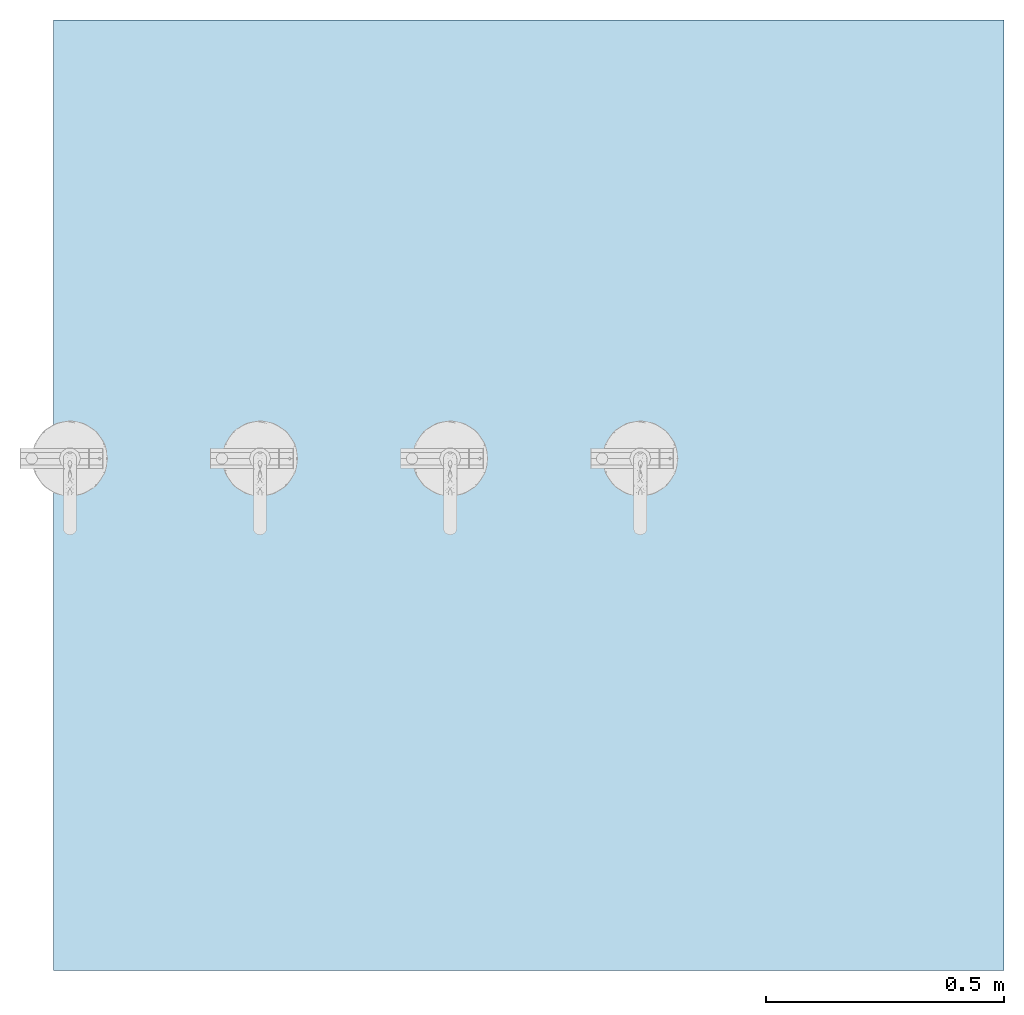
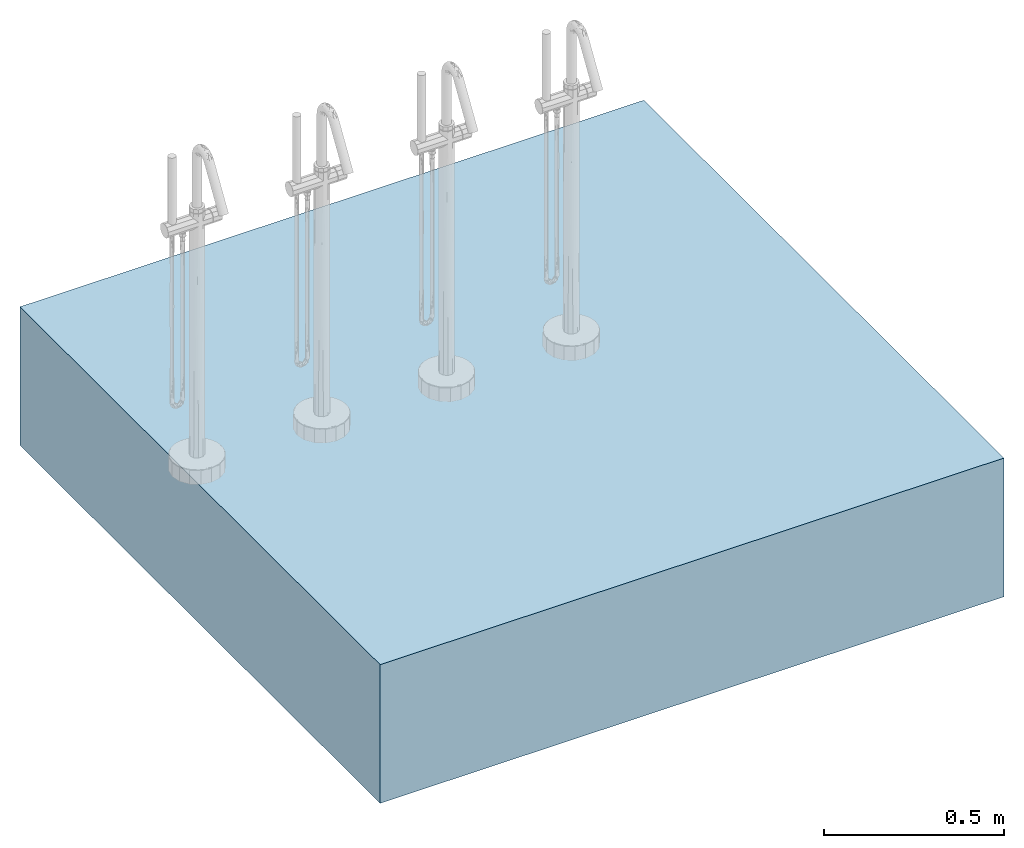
# One storey, incomplete: 1 slab.
"""IFC2X3 building model written with IfcOpenShell, lengths in millimetres."""

from ifc_helpers import new_model, entity, si_unit, converted_unit, derived_unit, direction, frame, origin, origin_2d_with_axis, place, context, subcontext, project, spatial, rectangle, extrude, material, layer, layer_set, layer_usage, type_object, element, save


model = new_model("IFC2X3")

# Units and contexts
model_context = context("Model", 3, precision=0.01, world=origin(), true_north=direction((6.12303176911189e-17, 1.0)))
body_context = subcontext(model_context, "Body", "Model", "MODEL_VIEW")
ifc_project = project(units=[si_unit("LENGTHUNIT", "METRE", prefix="MILLI"), si_unit("AREAUNIT", "SQUARE_METRE"), si_unit("VOLUMEUNIT", "CUBIC_METRE"), converted_unit("PLANEANGLEUNIT", "DEGREE", entity("IfcRatioMeasure", 0.0174532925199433), si_unit("PLANEANGLEUNIT", "RADIAN"), dimensions=[0, 0, 0, 0, 0, 0, 0]), si_unit("MASSUNIT", "GRAM", prefix="KILO"), derived_unit("MASSDENSITYUNIT", [(si_unit("MASSUNIT", "GRAM", prefix="KILO"), 1), (si_unit("LENGTHUNIT", "METRE"), -3)]), si_unit("TIMEUNIT", "SECOND"), si_unit("FREQUENCYUNIT", "HERTZ"), si_unit("THERMODYNAMICTEMPERATUREUNIT", "DEGREE_CELSIUS"), derived_unit("THERMALTRANSMITTANCEUNIT", [(si_unit("MASSUNIT", "GRAM", prefix="KILO"), 1), (si_unit("THERMODYNAMICTEMPERATUREUNIT", "KELVIN"), -1), (si_unit("TIMEUNIT", "SECOND"), -3)]), derived_unit("VOLUMETRICFLOWRATEUNIT", [(si_unit("LENGTHUNIT", "METRE"), 3), (si_unit("TIMEUNIT", "SECOND"), -1)]), si_unit("ELECTRICCURRENTUNIT", "AMPERE"), si_unit("ELECTRICVOLTAGEUNIT", "VOLT"), si_unit("POWERUNIT", "WATT"), si_unit("FORCEUNIT", "NEWTON", prefix="KILO"), si_unit("ILLUMINANCEUNIT", "LUX"), si_unit("LUMINOUSFLUXUNIT", "LUMEN"), si_unit("LUMINOUSINTENSITYUNIT", "CANDELA"), derived_unit("USERDEFINED", [(si_unit("MASSUNIT", "GRAM", prefix="KILO"), -1), (si_unit("LENGTHUNIT", "METRE"), -2), (si_unit("TIMEUNIT", "SECOND"), 3), (si_unit("LUMINOUSFLUXUNIT", "LUMEN"), 1)]), derived_unit("LINEARVELOCITYUNIT", [(si_unit("LENGTHUNIT", "METRE"), 1), (si_unit("TIMEUNIT", "SECOND"), -1)]), si_unit("PRESSUREUNIT", "PASCAL"), derived_unit("USERDEFINED", [(si_unit("LENGTHUNIT", "METRE"), -2), (si_unit("MASSUNIT", "GRAM", prefix="KILO"), 1), (si_unit("TIMEUNIT", "SECOND"), -2)])], contexts=[model_context])

# Site, building, storey
site_placement = place(None, origin())
site = spatial("IfcSite", under=ifc_project, at=site_placement, Name="Default", CompositionType="ELEMENT")
building_placement = place(site_placement, origin())
building = spatial("IfcBuilding", under=site, at=building_placement, Name="n/a", CompositionType="ELEMENT")
storey_placement = place(building_placement, origin())
storey = spatial("IfcBuildingStorey", under=building, at=storey_placement, Name="Level 0", CompositionType="ELEMENT", Elevation=0.0)

# Slab
ifc_material_1 = material(Name="Concrete, Sand/Cement Screed")
ifc_layer_1 = layer(ifc_material_1, 65.0)
ifc_material_2 = material(Name="Rigid insulation")
ifc_layer_2 = layer(ifc_material_2, 80.0)
ifc_material_3 = material(Name="Air")
ifc_layer_3 = layer(ifc_material_3, 150.0)
ifc_material_4 = material(Name="Concrete Masonry, Floor Block")
ifc_layer_4 = layer(ifc_material_4, 100.0)
ifc_material_5 = material(Name="Concrete, Precast")
ifc_layer_5 = layer(ifc_material_5, 75.0)
ifc_layer_set = layer_set([ifc_layer_1, ifc_layer_2, ifc_layer_3, ifc_layer_4, ifc_layer_5], Name="Floor:Floor-Grnd-Susp_65Scr-80Ins-100Blk-75PC")
ifc_layer_usage = layer_usage(ifc_layer_set, "AXIS3", "POSITIVE", 0.0)
slab_type = type_object("IfcSlabType", Name="Floor:Floor-Grnd-Susp_65Scr-80Ins-100Blk-75PC", PredefinedType="FLOOR", material=ifc_layer_set)
slab_placement = place(storey_placement, origin())
element("IfcSlab", 1, at=slab_placement, inside=storey, type_object=slab_type, material=ifc_layer_usage, Name="Floor:Floor-Grnd-Susp_65Scr-80Ins-100Blk-75PC", ObjectType="Floor:Floor-Grnd-Susp_65Scr-80Ins-100Blk-75PC", PredefinedType="FLOOR", context=body_context, shape_type="SweptSolid", body=[
    extrude(rectangle(XDim=2000.0, YDim=2000.0, at=origin_2d_with_axis()), frame((2617.89542022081, 511.02004687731, 0.0), z_axis=(0.0, 0.0, -1.0), x_axis=(0.0, 1.0, 0.0)), (0.0, 0.0, 1.0), 470.0),
])

save(model, "model.ifc")
